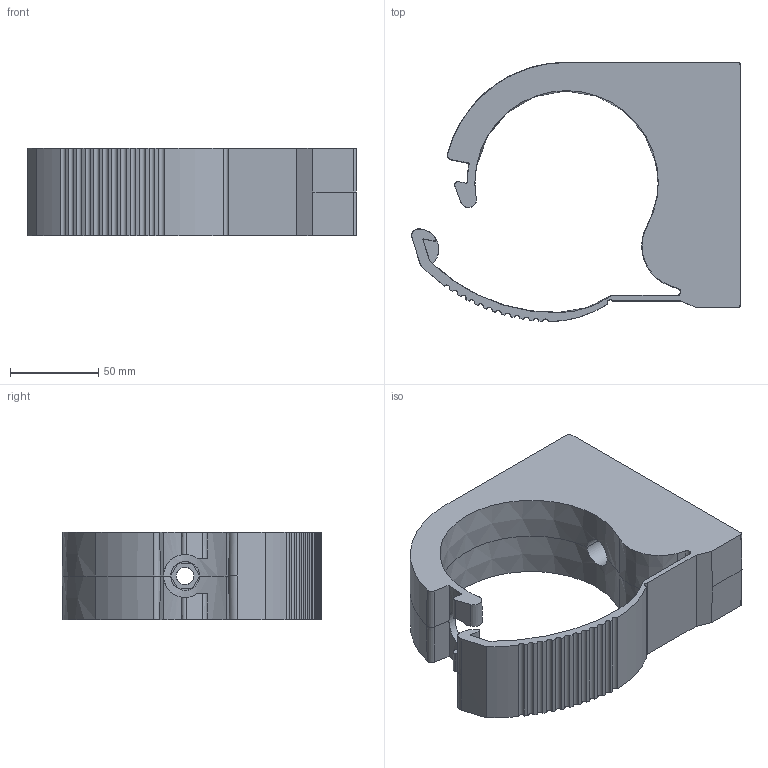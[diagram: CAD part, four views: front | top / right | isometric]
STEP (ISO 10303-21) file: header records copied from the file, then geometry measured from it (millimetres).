
FILE_DESCRIPTION((''),'2;1');
FILE_NAME('AU15802200','2017-05-16T',('Administrator'),(''),'PRO/ENGINEER BY PARAMETRIC TECHNOLOGY CORPORATION, 2009360','PRO/ENGINEER BY PARAMETRIC TECHNOLOGY CORPORATION, 2009360','');
FILE_SCHEMA(('AUTOMOTIVE_DESIGN_CC2 { 1 2 10303 214 -1 1 5 2 }'));
Length unit declared in the file: millimetre
Products named in the file (1): AU15802200
Bounding box: 185.93 x 146.76 x 49.34 mm (x, y, z)
Volume: 496756.1 mm3; surface area: 73566.8 mm2
Topology: 1 solids, 1 shells, 110 faces, 358 edges, 250 vertices
Faces by surface type: cylinder 42, plane 40, cone 28
Entity records: 5393 total; most frequent: CARTESIAN_POINT 1068, ORIENTED_EDGE 716, DIRECTION 666, PRESENTATION_STYLE_ASSIGNMENT 359, STYLED_ITEM 359, CURVE_STYLE 358, EDGE_CURVE 358, AXIS2_PLACEMENT_3D 258
